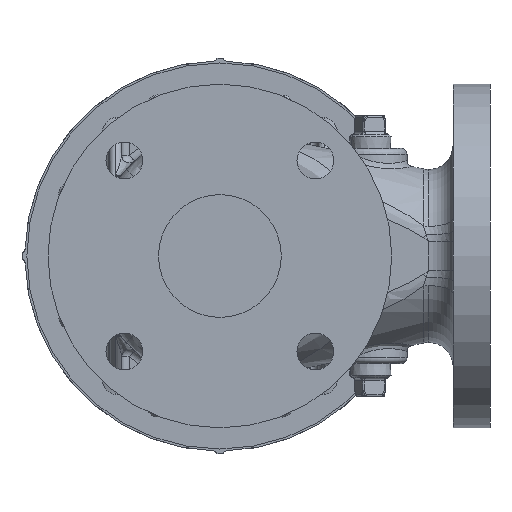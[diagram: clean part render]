
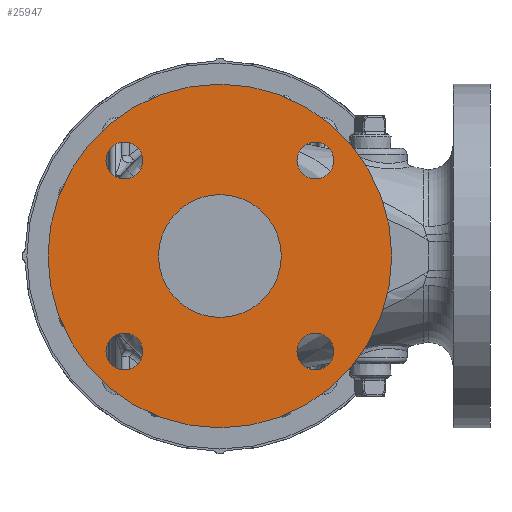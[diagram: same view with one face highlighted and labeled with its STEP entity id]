
A CAD part, front view. The second image highlights one B-rep face of the part: STEP entity #25947.
In plain terms, the highlighted planar face has unit normal (0, -1, 0).
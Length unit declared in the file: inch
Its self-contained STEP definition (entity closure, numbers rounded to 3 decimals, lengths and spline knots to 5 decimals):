
#1238 = EDGE_LOOP ( 'NONE', ( #10801, #5675 ) ) ;
#1548 = CIRCLE ( 'NONE', #27561, 0.375 ) ;
#1646 = DIRECTION ( 'NONE',  ( 0., 0., -1. ) ) ;
#2166 = EDGE_LOOP ( 'NONE', ( #18726, #24927 ) ) ;
#2435 = DIRECTION ( 'NONE',  ( 0., -1., 0. ) ) ;
#2487 = CARTESIAN_POINT ( 'NONE',  ( 0., -4., 0. ) ) ;
#2704 = DIRECTION ( 'NONE',  ( 0., 0., -1. ) ) ;
#2800 = CARTESIAN_POINT ( 'NONE',  ( 0., -4., 0. ) ) ;
#3334 = CIRCLE ( 'NONE', #36421, 0.375 ) ;
#3706 = EDGE_CURVE ( 'NONE', #26893, #14220, #1548, .T. ) ;
#3771 = EDGE_CURVE ( 'NONE', #16868, #12349, #3334, .T. ) ;
#4463 = ORIENTED_EDGE ( 'NONE', *, *, #18765, .F. ) ;
#4563 = CARTESIAN_POINT ( 'NONE',  ( 1.94454, -4., 1.56954 ) ) ;
#4569 = CARTESIAN_POINT ( 'NONE',  ( 0., -4., 0. ) ) ;
#4784 = DIRECTION ( 'NONE',  ( 0., -1., 0. ) ) ;
#4951 = ORIENTED_EDGE ( 'NONE', *, *, #3771, .F. ) ;
#5277 = DIRECTION ( 'NONE',  ( 0., 0., -1. ) ) ;
#5312 = CARTESIAN_POINT ( 'NONE',  ( 1.94454, -4., 1.94454 ) ) ;
#5440 = DIRECTION ( 'NONE',  ( 0., 0., 1. ) ) ;
#5472 = CARTESIAN_POINT ( 'NONE',  ( 1.94454, -4., 1.94454 ) ) ;
#5593 = EDGE_CURVE ( 'NONE', #9314, #32867, #32419, .T. ) ;
#5675 = ORIENTED_EDGE ( 'NONE', *, *, #5593, .F. ) ;
#5695 = AXIS2_PLACEMENT_3D ( 'NONE', #2487, #5821, #5440 ) ;
#5821 = DIRECTION ( 'NONE',  ( 0., 1., 0. ) ) ;
#5845 = FACE_BOUND ( 'NONE', #24710, .T. ) ;
#5995 = AXIS2_PLACEMENT_3D ( 'NONE', #2800, #19610, #30559 ) ;
#8174 = CARTESIAN_POINT ( 'NONE',  ( 1.94454, -4., -1.94454 ) ) ;
#8253 = FACE_BOUND ( 'NONE', #8471, .T. ) ;
#8471 = EDGE_LOOP ( 'NONE', ( #4463, #31909 ) ) ;
#8799 = FACE_BOUND ( 'NONE', #2166, .T. ) ;
#9314 = VERTEX_POINT ( 'NONE', #34357 ) ;
#9541 = EDGE_CURVE ( 'NONE', #33649, #21542, #16312, .T. ) ;
#9824 = DIRECTION ( 'NONE',  ( 0., -1., 0. ) ) ;
#9913 = ORIENTED_EDGE ( 'NONE', *, *, #36472, .F. ) ;
#10054 = CARTESIAN_POINT ( 'NONE',  ( 1.94454, -4., -2.31954 ) ) ;
#10111 = AXIS2_PLACEMENT_3D ( 'NONE', #29648, #9824, #15722 ) ;
#10258 = ORIENTED_EDGE ( 'NONE', *, *, #32325, .F. ) ;
#10801 = ORIENTED_EDGE ( 'NONE', *, *, #22976, .F. ) ;
#11128 = EDGE_CURVE ( 'NONE', #24450, #27980, #31173, .T. ) ;
#11189 = FACE_BOUND ( 'NONE', #1238, .T. ) ;
#11924 = AXIS2_PLACEMENT_3D ( 'NONE', #17712, #26789, #29013 ) ;
#12349 = VERTEX_POINT ( 'NONE', #4563 ) ;
#13456 = AXIS2_PLACEMENT_3D ( 'NONE', #30510, #4784, #30152 ) ;
#13508 = CARTESIAN_POINT ( 'NONE',  ( -1.94454, -4., 1.56954 ) ) ;
#13579 = CARTESIAN_POINT ( 'NONE',  ( -3.5, -4., 0. ) ) ;
#13661 = EDGE_CURVE ( 'NONE', #17782, #27700, #26519, .T. ) ;
#13800 = AXIS2_PLACEMENT_3D ( 'NONE', #4569, #23644, #18087 ) ;
#13948 = FACE_BOUND ( 'NONE', #24243, .T. ) ;
#14144 = FACE_OUTER_BOUND ( 'NONE', #22919, .T. ) ;
#14220 = VERTEX_POINT ( 'NONE', #10054 ) ;
#14460 = AXIS2_PLACEMENT_3D ( 'NONE', #5472, #28052, #2704 ) ;
#15385 = CIRCLE ( 'NONE', #30181, 0.375 ) ;
#15694 = CARTESIAN_POINT ( 'NONE',  ( -1.94454, -4., -2.31954 ) ) ;
#15722 = DIRECTION ( 'NONE',  ( 0., 0., -1. ) ) ;
#16312 = CIRCLE ( 'NONE', #5695, 3.5 ) ;
#16359 = DIRECTION ( 'NONE',  ( 0., -1., 0. ) ) ;
#16868 = VERTEX_POINT ( 'NONE', #27225 ) ;
#16957 = AXIS2_PLACEMENT_3D ( 'NONE', #35975, #22250, #36524 ) ;
#17712 = CARTESIAN_POINT ( 'NONE',  ( -1.94454, -4., 1.94454 ) ) ;
#17782 = VERTEX_POINT ( 'NONE', #23901 ) ;
#17922 = DIRECTION ( 'NONE',  ( 0., -1., 0. ) ) ;
#18087 = DIRECTION ( 'NONE',  ( 0., 0., 1. ) ) ;
#18726 = ORIENTED_EDGE ( 'NONE', *, *, #27439, .F. ) ;
#18765 = EDGE_CURVE ( 'NONE', #27980, #24450, #26060, .T. ) ;
#18986 = CIRCLE ( 'NONE', #10111, 0.375 ) ;
#19084 = CARTESIAN_POINT ( 'NONE',  ( 0., -4., 3.5 ) ) ;
#19610 = DIRECTION ( 'NONE',  ( 0., -1., 0. ) ) ;
#19797 = DIRECTION ( 'NONE',  ( 0., 0., -1. ) ) ;
#20963 = CIRCLE ( 'NONE', #14460, 0.375 ) ;
#21542 = VERTEX_POINT ( 'NONE', #19084 ) ;
#22250 = DIRECTION ( 'NONE',  ( 0., -1., 0. ) ) ;
#22255 = ORIENTED_EDGE ( 'NONE', *, *, #28535, .F. ) ;
#22630 = CARTESIAN_POINT ( 'NONE',  ( 0., -4., -3.5 ) ) ;
#22708 = DIRECTION ( 'NONE',  ( 0., -1., 0. ) ) ;
#22744 = ORIENTED_EDGE ( 'NONE', *, *, #13661, .F. ) ;
#22919 = EDGE_LOOP ( 'NONE', ( #10258, #25553 ) ) ;
#22976 = EDGE_CURVE ( 'NONE', #32867, #9314, #27326, .T. ) ;
#23484 = CARTESIAN_POINT ( 'NONE',  ( 0., -4., 0. ) ) ;
#23644 = DIRECTION ( 'NONE',  ( 0., 1., 0. ) ) ;
#23901 = CARTESIAN_POINT ( 'NONE',  ( -1.94454, -4., -1.56954 ) ) ;
#24243 = EDGE_LOOP ( 'NONE', ( #22255, #22744 ) ) ;
#24396 = CARTESIAN_POINT ( 'NONE',  ( 1.94454, -4., -1.94454 ) ) ;
#24450 = VERTEX_POINT ( 'NONE', #29452 ) ;
#24666 = AXIS2_PLACEMENT_3D ( 'NONE', #23484, #17922, #26814 ) ;
#24710 = EDGE_LOOP ( 'NONE', ( #9913, #4951 ) ) ;
#24927 = ORIENTED_EDGE ( 'NONE', *, *, #3706, .F. ) ;
#25553 = ORIENTED_EDGE ( 'NONE', *, *, #9541, .F. ) ;
#25947 = ADVANCED_FACE ( 'NONE', ( #5845, #11189, #13948, #8799, #8253, #14144 ), #31377, .T. ) ;
#26060 = CIRCLE ( 'NONE', #5995, 1.25 ) ;
#26188 = CARTESIAN_POINT ( 'NONE',  ( 1.94454, -4., -1.56954 ) ) ;
#26519 = CIRCLE ( 'NONE', #16957, 0.375 ) ;
#26789 = DIRECTION ( 'NONE',  ( 0., -1., 0. ) ) ;
#26814 = DIRECTION ( 'NONE',  ( 0., 0., -1. ) ) ;
#26893 = VERTEX_POINT ( 'NONE', #26188 ) ;
#26993 = DIRECTION ( 'NONE',  ( 0., -1., 0. ) ) ;
#27225 = CARTESIAN_POINT ( 'NONE',  ( 1.94454, -4., 2.31954 ) ) ;
#27326 = CIRCLE ( 'NONE', #11924, 0.375 ) ;
#27439 = EDGE_CURVE ( 'NONE', #14220, #26893, #15385, .T. ) ;
#27561 = AXIS2_PLACEMENT_3D ( 'NONE', #24396, #26993, #1646 ) ;
#27700 = VERTEX_POINT ( 'NONE', #15694 ) ;
#27980 = VERTEX_POINT ( 'NONE', #29735 ) ;
#28052 = DIRECTION ( 'NONE',  ( 0., -1., 0. ) ) ;
#28535 = EDGE_CURVE ( 'NONE', #27700, #17782, #18986, .T. ) ;
#29013 = DIRECTION ( 'NONE',  ( 0., 0., -1. ) ) ;
#29452 = CARTESIAN_POINT ( 'NONE',  ( 0., -4., -1.25 ) ) ;
#29648 = CARTESIAN_POINT ( 'NONE',  ( -1.94454, -4., -1.94454 ) ) ;
#29735 = CARTESIAN_POINT ( 'NONE',  ( 0., -4., 1.25 ) ) ;
#29802 = CIRCLE ( 'NONE', #13800, 3.5 ) ;
#30152 = DIRECTION ( 'NONE',  ( 0., 0., -1. ) ) ;
#30181 = AXIS2_PLACEMENT_3D ( 'NONE', #8174, #2435, #19797 ) ;
#30384 = AXIS2_PLACEMENT_3D ( 'NONE', #13579, #16359, #5277 ) ;
#30510 = CARTESIAN_POINT ( 'NONE',  ( -1.94454, -4., 1.94454 ) ) ;
#30559 = DIRECTION ( 'NONE',  ( 0., 0., -1. ) ) ;
#30682 = DIRECTION ( 'NONE',  ( 0., 0., -1. ) ) ;
#31173 = CIRCLE ( 'NONE', #24666, 1.25 ) ;
#31377 = PLANE ( 'NONE',  #30384 ) ;
#31909 = ORIENTED_EDGE ( 'NONE', *, *, #11128, .F. ) ;
#32325 = EDGE_CURVE ( 'NONE', #21542, #33649, #29802, .T. ) ;
#32419 = CIRCLE ( 'NONE', #13456, 0.375 ) ;
#32867 = VERTEX_POINT ( 'NONE', #13508 ) ;
#33649 = VERTEX_POINT ( 'NONE', #22630 ) ;
#34357 = CARTESIAN_POINT ( 'NONE',  ( -1.94454, -4., 2.31954 ) ) ;
#35975 = CARTESIAN_POINT ( 'NONE',  ( -1.94454, -4., -1.94454 ) ) ;
#36421 = AXIS2_PLACEMENT_3D ( 'NONE', #5312, #22708, #30682 ) ;
#36472 = EDGE_CURVE ( 'NONE', #12349, #16868, #20963, .T. ) ;
#36524 = DIRECTION ( 'NONE',  ( 0., 0., -1. ) ) ;
